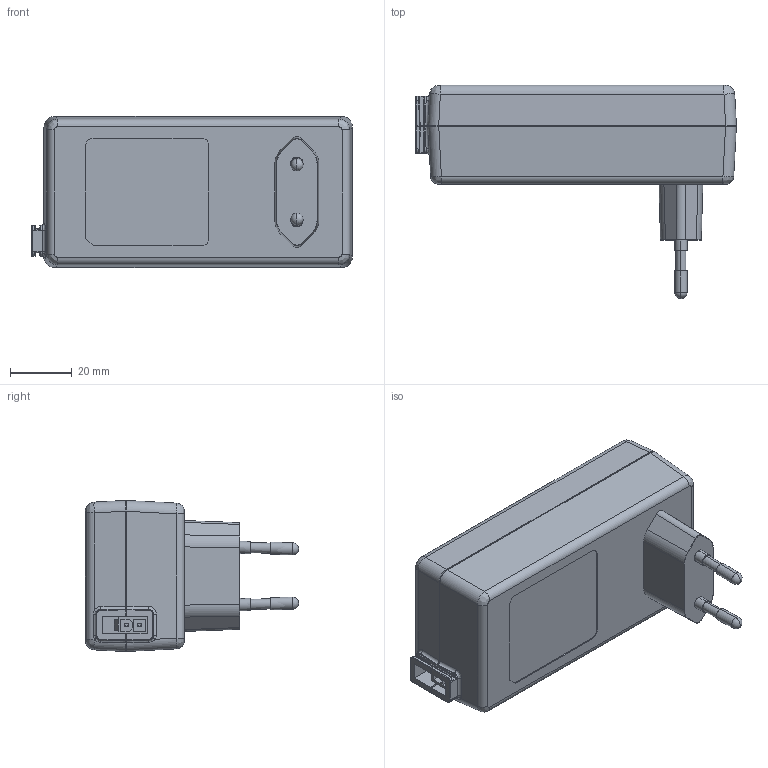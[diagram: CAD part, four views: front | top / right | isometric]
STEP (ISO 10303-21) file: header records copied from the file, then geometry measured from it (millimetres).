
FILE_DESCRIPTION((''),'2;1');
FILE_NAME('SMPS001','2016-04-14T',('bs'),(''),'CREO PARAMETRIC BY PTC INC, 2015080','CREO PARAMETRIC BY PTC INC, 2015080','');
FILE_SCHEMA(('CONFIG_CONTROL_DESIGN'));
Length unit declared in the file: millimetre
Products named in the file (1): SMPS001
Bounding box: 104 x 69.1 x 49 mm (x, y, z)
Volume: 158592 mm3; surface area: 21558.2 mm2
Topology: 1 solids, 1 shells, 500 faces, 1328 edges, 861 vertices
Faces by surface type: plane 283, cylinder 92, extrusion 77, bspline 30, torus 14, sphere 4
Entity records: 18491 total; most frequent: CARTESIAN_POINT 6595, ORIENTED_EDGE 2648, DIRECTION 2009, EDGE_CURVE 1324, VECTOR 963, LINE 886, VERTEX_POINT 861, EDGE_LOOP 539
